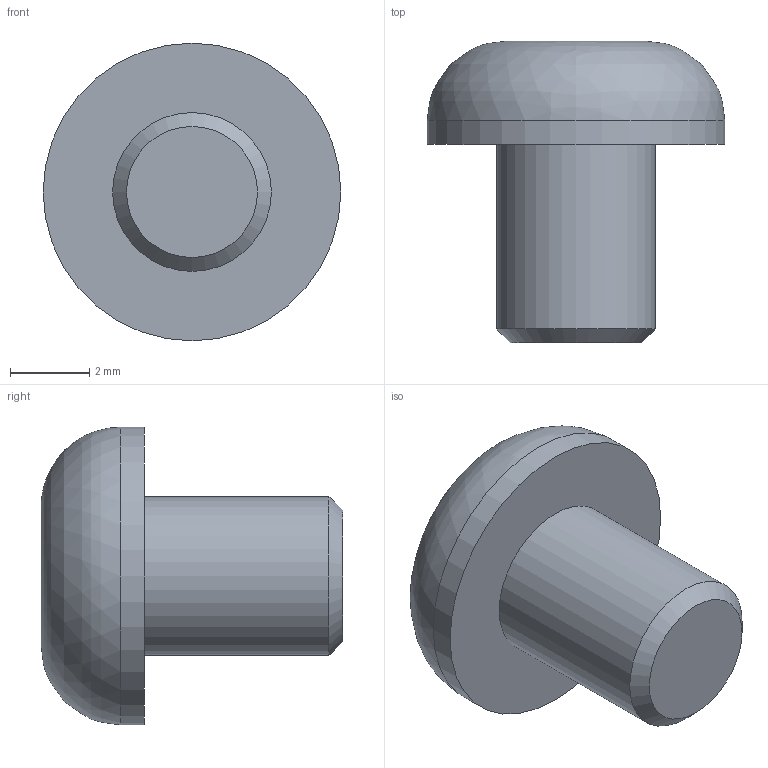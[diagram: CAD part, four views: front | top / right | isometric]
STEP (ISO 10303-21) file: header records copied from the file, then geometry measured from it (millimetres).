
FILE_DESCRIPTION(/* description */ (''),/* implementation_level */ '2;1');
FILE_NAME(/* name */ 'C:\Users\AMS43\Documents\Inventor\AMS\misumi\ボルト_ipt\ボルト_stp\BCSS-04-05.ipt.stp',/* time_stamp */ '2016-10-06T11:46:33+09:00',/* author */ ('AMS43'),/* organization */ (''),/* preprocessor_version */ 'ST-DEVELOPER v15.2',/* originating_system */ 'Autodesk Inventor 2014',/* authorisation */ '');
FILE_SCHEMA (('AUTOMOTIVE_DESIGN { 1 0 10303 214 3 1 1 }'));
Length unit declared in the file: metre
Products named in the file (1): BCSS-04-05
Bounding box: 7.5 x 7.6 x 7.5 mm (x, y, z)
Volume: 148.4 mm3; surface area: 203.8 mm2
Topology: 1 solids, 1 shells, 20 faces, 44 edges, 27 vertices
Faces by surface type: plane 15, cylinder 2, cone 2, bspline 1
Full cylindrical faces by diameter (mm): 4 x1, 7.5 x1
Entity records: 569 total; most frequent: CARTESIAN_POINT 114, DIRECTION 92, ORIENTED_EDGE 78, EDGE_CURVE 39, AXIS2_PLACEMENT_3D 34, VERTEX_POINT 26, EDGE_LOOP 25, LINE 24
